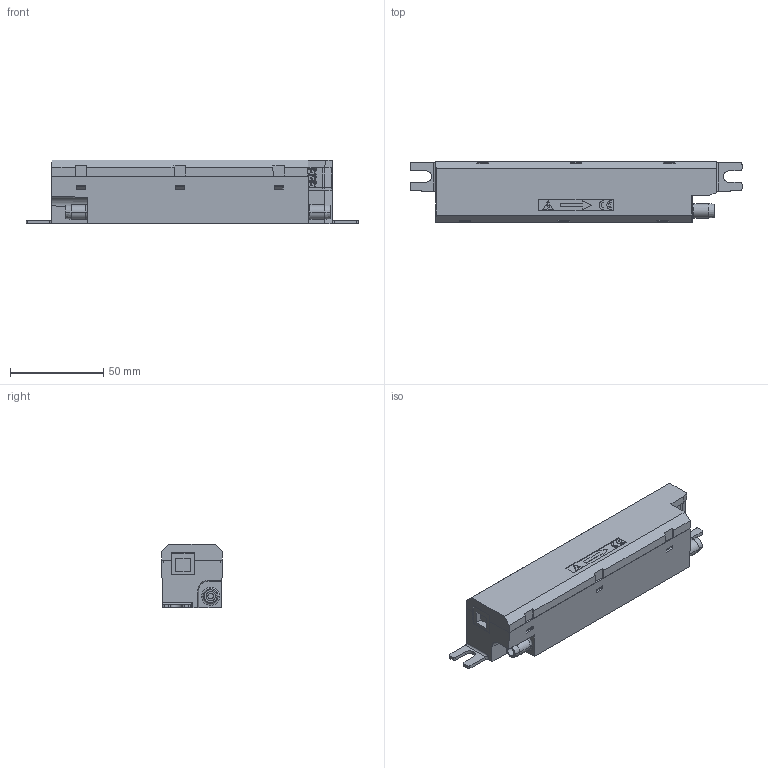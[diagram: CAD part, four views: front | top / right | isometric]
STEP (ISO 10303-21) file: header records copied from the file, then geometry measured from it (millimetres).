
FILE_DESCRIPTION(('Creo Elements/Direct Modeling STEP Export'),'2;1');
FILE_NAME('Pumpkin10.stp','2025-01-07T11:33:58',(''),(''),'Creo Elements/Direct Modeling STEP processor for AP214 (Solid Model)','Creo Elements/Direct Modeling 20.3B 05-Dec-2020 (C) Parametric Technology GmbH','');
FILE_SCHEMA(('AUTOMOTIVE_DESIGN { 1 0 10303 214 1 1 1 1 }'));
Length unit declared in the file: millimetre
Products named in the file (26): DA609010.PRT; MIN-L-YZG1.PRT; MIN-1_ASM_1.ASM; MINI_03_BO.PRT; MINI_03_XQ.PRT; MINI_01_DZ_7.PRT; MINI_03_BAOCHIJIA.PRT; S_PUMP_03_XIANQUANYITAO.ASM; S3_LUOSI_4.PRT; MIN-2_ASM_ASM.ASM; MIN-L-LJQ_2.PRT; MINI_ASM.ASM; NEW_S_PUMP_STP.ASM; DA8010010.PRT; BUCHSE.PRT; ANSCHLUSS_PUMPE.PRT; SKIN_GROUP1.PRT; PLATINE.PRT; VARISTOR.PRT; VARISTOR_1.PRT; ZHR-6.PRT; ELEKTRONIK.ASM; EE07_20.ASM; 3053_01_ET_PRT.PRT; 3053_02_ET_PRT.PRT; PUMPKIN10
Assembly tree (27 placements, depth 7):
  PUMPKIN10
    3053_02_ET_PRT.PRT
    3053_01_ET_PRT.PRT
    EE07_20.ASM
      ELEKTRONIK.ASM
        ZHR-6.PRT
        VARISTOR_1.PRT
        VARISTOR.PRT
        PLATINE.PRT
        SKIN_GROUP1.PRT
        ANSCHLUSS_PUMPE.PRT
        BUCHSE.PRT
      DA8010010.PRT
      NEW_S_PUMP_STP.ASM
        MINI_ASM.ASM
          MIN-L-LJQ_2.PRT
          MIN-2_ASM_ASM.ASM
            S3_LUOSI_4.PRT  x2
            S_PUMP_03_XIANQUANYITAO.ASM
              MINI_03_BAOCHIJIA.PRT
              MINI_01_DZ_7.PRT  x2
              MINI_03_XQ.PRT
              MINI_03_BO.PRT
            MIN-1_ASM_1.ASM
              MIN-L-YZG1.PRT
      DA609010.PRT
Bounding box: 178 x 32.5 x 34.2 mm (x, y, z)
Volume: 54397.7 mm3; surface area: 75138.6 mm2
Topology: 20 solids, 20 shells, 2262 faces, 6215 edges, 4084 vertices
Faces by surface type: plane 1583, cylinder 508, torus 79, cone 42, bspline 26, extrusion 18, sphere 6
Entity records: 75166 total; most frequent: CARTESIAN_POINT 18880, ORIENTED_EDGE 11894, DIRECTION 10532, EDGE_CURVE 5947, VECTOR 4596, LINE 4582, VERTEX_POINT 3912, AXIS2_PLACEMENT_3D 2968
